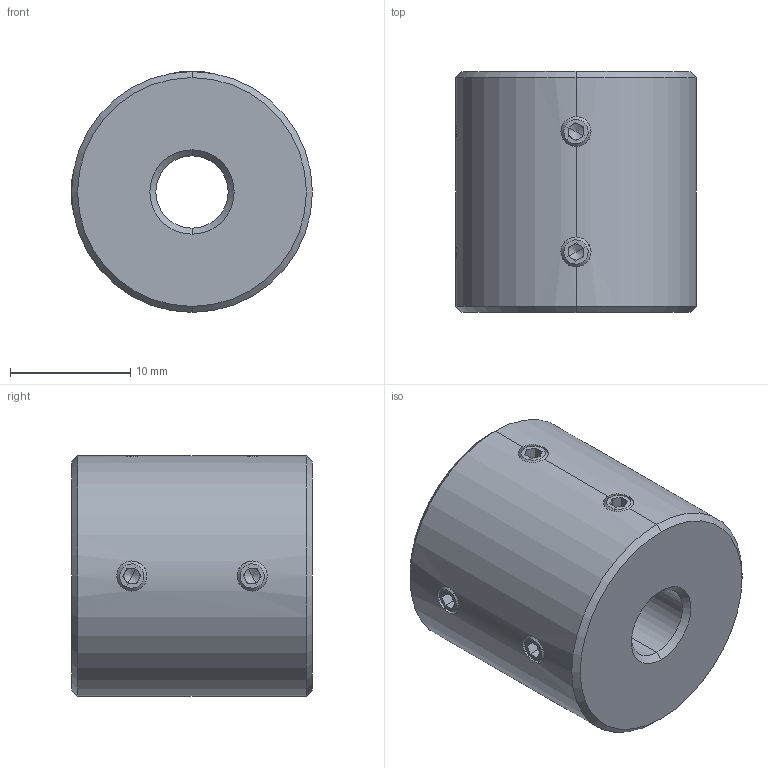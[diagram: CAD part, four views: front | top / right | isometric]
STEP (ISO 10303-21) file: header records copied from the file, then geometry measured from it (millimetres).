
FILE_DESCRIPTION (( 'STEP AP214' ), '1' );
FILE_NAME ('LL-D-D20L20-6-6.STEP', '2022-07-23T06:31:55', ( '' ), ( '' ), 'SwSTEP 2.0', 'SolidWorks 2022', '' );
FILE_SCHEMA (( 'AUTOMOTIVE_DESIGN' ));
Length unit declared in the file: millimetre
Products named in the file (1): LL-D-D20L20-6-6
Bounding box: 20 x 20 x 20 mm (x, y, z)
Volume: 5625.5 mm3; surface area: 2308.2 mm2
Topology: 1 solids, 1 shells, 110 faces, 280 edges, 172 vertices
Faces by surface type: plane 58, cone 32, cylinder 20
Entity records: 3566 total; most frequent: CARTESIAN_POINT 883, DIRECTION 566, ORIENTED_EDGE 544, EDGE_CURVE 272, AXIS2_PLACEMENT_3D 207, VERTEX_POINT 172, VECTOR 152, LINE 152
